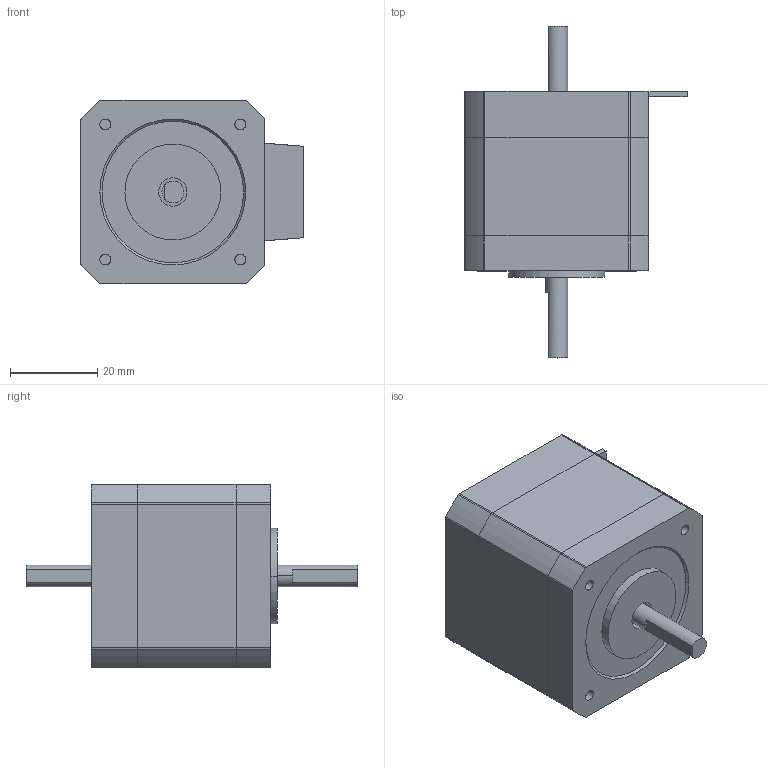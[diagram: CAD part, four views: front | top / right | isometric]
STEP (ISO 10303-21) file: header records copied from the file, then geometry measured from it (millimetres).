
FILE_DESCRIPTION (( 'STEP AP203' ), '1' );
FILE_NAME ('42CM03S-D V3.0.STEP', '2026-09-09T07:27:08', ( 'YOS' ), ( 'MS' ), 'SwSTEP 2.0', 'SolidWorks 2023', '' );
FILE_SCHEMA (( 'CONFIG_CONTROL_DESIGN' ));
Length unit declared in the file: millimetre
Products named in the file (5): 42CM03S-D V3.0; 42五相定子-H22.5; 42五相前端盖（出轴18.5）; cross recessed small pan head screws gb_GB_CROSS_SCREWS_TYPE3 M3X30-30-S; 42五相后端盖（出轴15）
Assembly tree (7 placements, depth 2):
  42CM03S-D V3.0
    42五相定子-H22.5
    42五相后端盖（出轴15）
    42五相前端盖（出轴18.5）
    cross recessed small pan head screws gb_GB_CROSS_SCREWS_TYPE3 M3X30-30-S  x4
Bounding box: 50.98 x 76.2 x 42.18 mm (x, y, z)
Volume: 70457.4 mm3; surface area: 22572.8 mm2
Topology: 9 solids, 9 shells, 2418 faces, 4976 edges, 2586 vertices
Faces by surface type: cone 1466, cylinder 838, plane 106, sphere 8
Entity records: 19109 total; most frequent: DIRECTION 3646, CARTESIAN_POINT 3029, ORIENTED_EDGE 2980, EDGE_CURVE 1490, AXIS2_PLACEMENT_3D 1451, VERTEX_POINT 810, LINE 744, VECTOR 744
